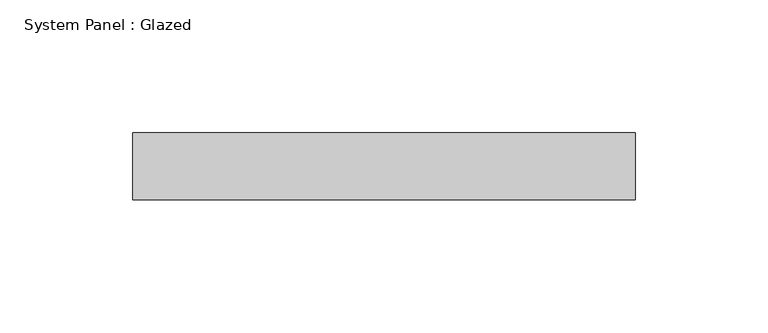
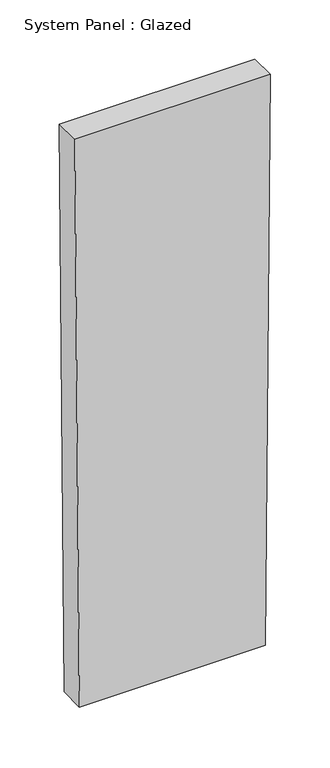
"""IFC4 building model written with IfcOpenShell, lengths in millimetres: plate geometry, System Panel : Glazed."""

from ifc_helpers import new_model, si_unit, frame, origin, place, context, project, spatial, polyline, outline, extrude, source, transform, mapped, element, save


def system_panel_glazed_956d20dc(model_context):
    return source(origin(), model_context, "Body", "SweptSolid", [
        extrude(outline(polyline([(0.0, -90.408297), (0.0, 90.408297), (584.1823883, 94.8489989), (584.1823883, -94.8489989), (0.0, -90.408297)])), frame((0.0, 19.05, 0.0), z_axis=(0.0, 1.0, 0.0), x_axis=(0.0, 0.0, 1.0)), (0.0, 0.0, 1.0), 25.4),
    ])


if __name__ == "__main__":
    model = new_model("IFC4")
    model_context = context("Model", 3, world=origin())
    ifc_project = project(units=[si_unit("LENGTHUNIT", "METRE", prefix="MILLI")], contexts=[model_context])
    site = spatial("IfcSite", under=ifc_project)
    building = spatial("IfcBuilding", under=site)
    placement = place(None, origin())
    system_panel_glazed_shape = system_panel_glazed_956d20dc(model_context)
    element("IfcPlate", 1, ObjectType="System Panel : Glazed", at=placement, inside=building, context=model_context, shape_type="MappedRepresentation", body=[
        mapped(system_panel_glazed_shape, transform((0.0, 0.0, 0.0), x_axis=(1.0, 0.0, 0.0), y_axis=(0.0, 1.0, 0.0), z_axis=(0.0, 0.0, 1.0))),
    ])
    save(model, "model.ifc")
